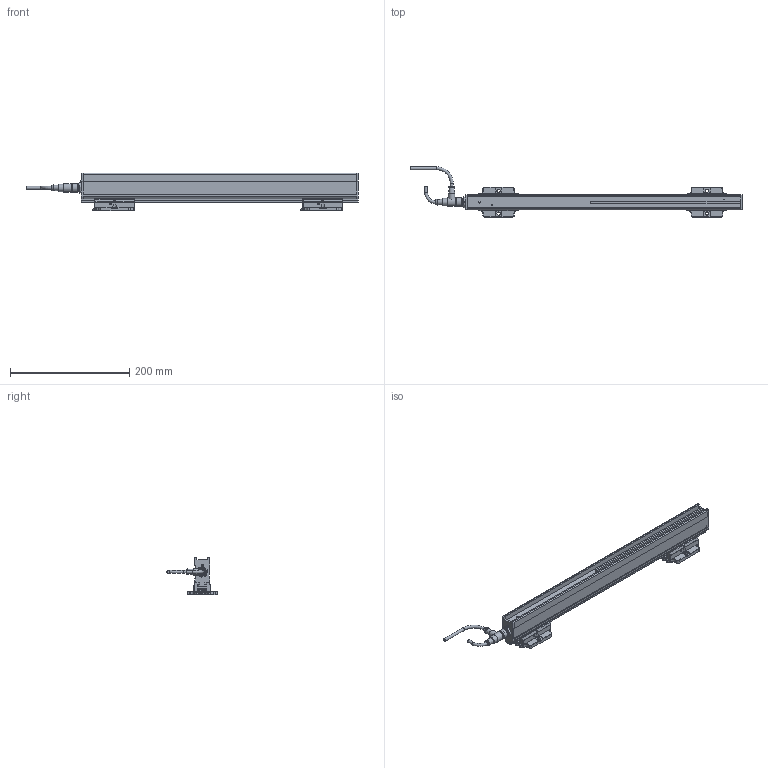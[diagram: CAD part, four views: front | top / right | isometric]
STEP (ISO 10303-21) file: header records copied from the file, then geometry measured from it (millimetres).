
FILE_DESCRIPTION(('Bauteilbeschreibung','HiCAD-Model','HiCAD-STEP-TRANSLATION','Bauteilbeschreibung'),'2;1');
FILE_NAME('PERFORMAXIQEASY_390-480_3D.STP','2014-03-05T11:16:42+00:00',('Konstrukteur'),('Konstrukteur Firma GmbH'),' HiCAD 2011, Step 1600.0 ','HiCAD 2011','confidential');
FILE_SCHEMA(('AUTOMOTIVE_DESIGN { 1 2 10303 214 0 1 1 1 }'));
Products named in the file (38): PERFORMAXIQEASY_390_480_3D; A_PERFORMAX IQ EASY 390_480; A_PERFORMAX IQ EASY SPEED; A_CAP DE; A_CAP CE_5; GROUP; PIN; GROUP0; PIN0; LED_2C_3MM; LED02C03MM; A519020315_CONNECTOR APPLIANCE; A_INSERT; A_CONTACTS; A_HOUSING; A_PROFILE; A_POTTING; A532000100_BRACKET BARS_ MOUNT; A_SIDE PIECE; A0SIDE0PIECE; A_BRACKET SMALL; A_SLIDE PIECE; A5320001000BRACKET0BARS00MOUNT; A0SIDE0PIECE0; A0SIDE0PIECE1; A0BRACKET0SMALL; A0SLIDE0PIECE; A_CONNECTOR STRAIGHT; EXTRUDED SOLID_0; DRAAD GEBOGEN; REVOLVED SOLID_1; REVOLVED SOLID_3; A_CONNECTOR ANGLED; REVOLVED0SOLID01; EXTRUDED0SOLID00; C_EDGE SWEEP_0; REVOLVED SOLID_2; REVOLVED0SOLID03
Assembly tree (37 placements, depth 5):
  PERFORMAXIQEASY_390_480_3D
    A_PERFORMAX IQ EASY 390_480
      A_PERFORMAX IQ EASY SPEED
        A_CAP DE
        A_CAP CE_5
        GROUP
          PIN
        GROUP0
          PIN0
        LED_2C_3MM
        LED02C03MM
        A519020315_CONNECTOR APPLIANCE
          A_INSERT
          A_CONTACTS
          A_HOUSING
        A_PROFILE
        A_POTTING
      A532000100_BRACKET BARS_ MOUNT
        A_SIDE PIECE
        A0SIDE0PIECE
        A_BRACKET SMALL
        A_SLIDE PIECE
      A5320001000BRACKET0BARS00MOUNT
        A0SIDE0PIECE0
        A0SIDE0PIECE1
        A0BRACKET0SMALL
        A0SLIDE0PIECE
      A_CONNECTOR STRAIGHT
        EXTRUDED SOLID_0
        DRAAD GEBOGEN
        REVOLVED SOLID_1
        REVOLVED SOLID_3
      A_CONNECTOR ANGLED
        REVOLVED0SOLID01
        EXTRUDED0SOLID00
        C_EDGE SWEEP_0
        REVOLVED SOLID_2
        REVOLVED0SOLID03
Bounding box: 557.89 x 84.28 x 63.13 mm (x, y, z)
Volume: 525411.5 mm3; surface area: 158722.4 mm2
Topology: 33 solids, 33 shells, 1911 faces, 4879 edges, 2932 vertices
Faces by surface type: cylinder 777, plane 751, sphere 112, torus 111, bspline 88, cone 72
Full cylindrical faces by diameter (mm): 0.8 x10, 1 x5, 2.387 x4, 3 x11, 3.1 x1, 4.2 x2, 5 x4, 5.5 x10, 8 x2, 8.2 x1, 8.4 x2, 8.945 x1, 9 x2, 10.2 x1, 10.5 x3, 11 x1, 12 x3, 12.8 x1, 13.8 x4, 14.5 x3
Entity records: 87383 total; most frequent: CARTESIAN_POINT 19760, DIRECTION 9521, ORIENTED_EDGE 9176, EDGE_CURVE 4588, COLOUR_RGB 4377, PRESENTATION_STYLE_ASSIGNMENT 4377, OVER_RIDING_STYLED_ITEM 4349, CURVE_STYLE 4344
